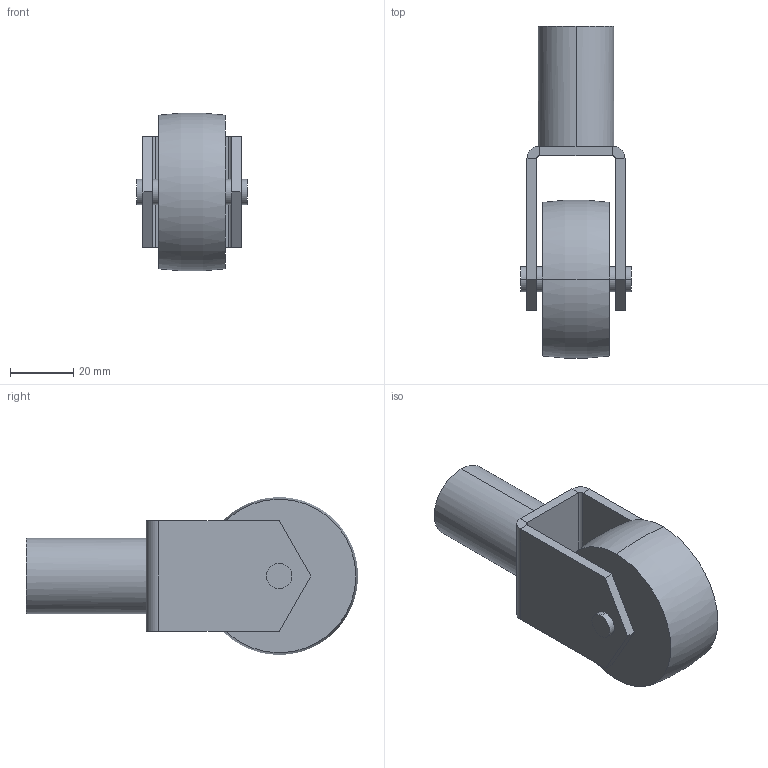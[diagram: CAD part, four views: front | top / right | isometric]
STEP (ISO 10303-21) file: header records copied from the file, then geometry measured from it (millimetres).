
FILE_DESCRIPTION (( 'STEP AP214' ), '1' );
FILE_NAME ('SGK50.step', '2024-02-15T04:33:17', ( 'catia' ), ( 'HP Inc.' ), 'SwSTEP 2.0', 'SolidWorks 2021', '' );
FILE_SCHEMA (( 'AUTOMOTIVE_DESIGN' ));
Length unit declared in the file: millimetre
Products named in the file (1): SGK50
Bounding box: 35 x 104.92 x 49.84 mm (x, y, z)
Volume: 70292.6 mm3; surface area: 18912.4 mm2
Topology: 1 solids, 1 shells, 44 faces, 94 edges, 56 vertices
Faces by surface type: plane 28, cylinder 14, torus 2
Entity records: 1214 total; most frequent: DIRECTION 222, CARTESIAN_POINT 195, ORIENTED_EDGE 188, EDGE_CURVE 94, AXIS2_PLACEMENT_3D 83, VERTEX_POINT 56, LINE 56, VECTOR 56
